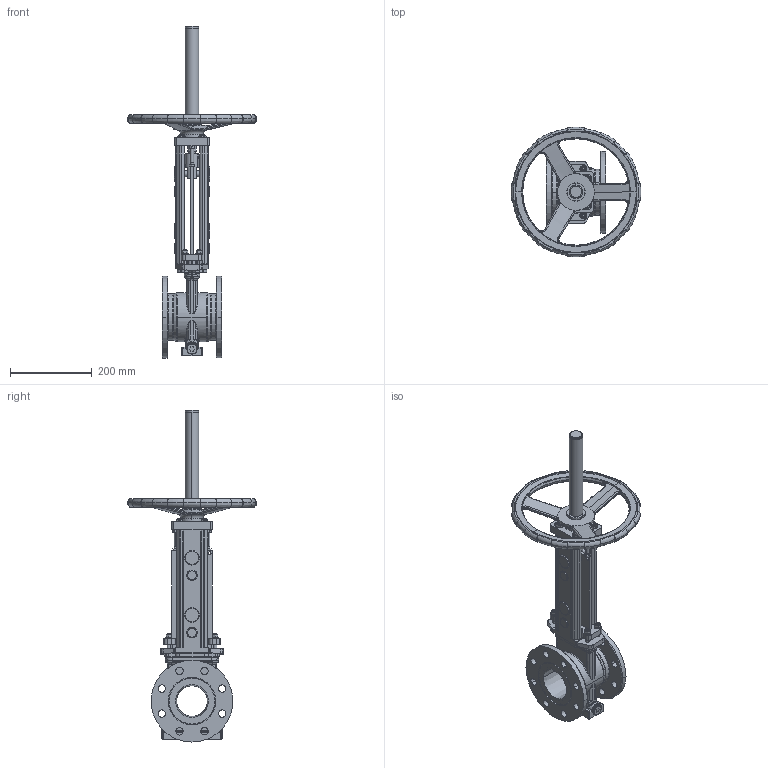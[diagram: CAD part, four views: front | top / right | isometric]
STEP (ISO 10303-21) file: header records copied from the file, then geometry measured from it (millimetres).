
FILE_DESCRIPTION(('STEP AP203'),'1');
FILE_NAME('F:/3D-block färdiga för export/SLV-SLF/DN 80/SLF-DN80-PN10-HW-Rising_stem.stp','2014-07-02T06:59:54',(' '),(' '),'Spatial InterOp 3D',' ',' ');
FILE_SCHEMA(('CONFIG_CONTROL_DESIGN'));
Length unit declared in the file: millimetre
Products named in the file (1): 1
Bounding box: 316.7 x 316.7 x 811.75 mm (x, y, z)
Volume: 3315480.4 mm3; surface area: 955210.6 mm2
Topology: 1 solids, 14 shells, 1802 faces, 4595 edges, 2883 vertices
Faces by surface type: cylinder 689, plane 522, cone 246, torus 232, bspline 91, sphere 22
Full cylindrical faces by diameter (mm): 12 x1
Entity records: 72041 total; most frequent: CARTESIAN_POINT 28106, DIRECTION 9708, ORIENTED_EDGE 9150, EDGE_CURVE 4575, AXIS2_PLACEMENT_3D 4052, VERTEX_POINT 2883, CIRCLE 2258, EDGE_LOOP 2012
